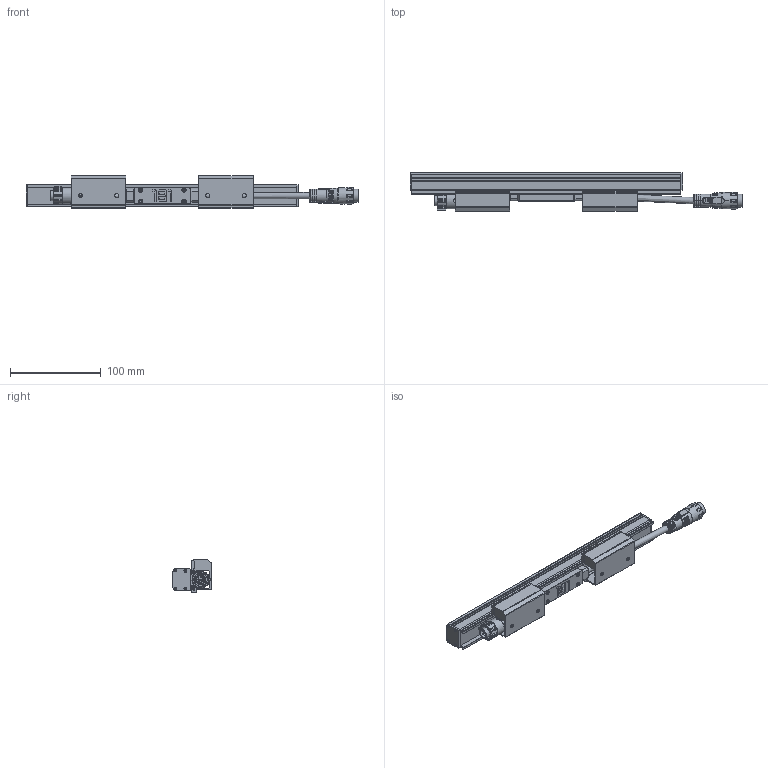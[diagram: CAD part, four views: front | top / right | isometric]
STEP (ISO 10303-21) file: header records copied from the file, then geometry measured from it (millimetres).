
FILE_DESCRIPTION (( 'STEP AP214' ), '1' );
FILE_NAME ('DiGi Linear D-Series 2 L300.STEP', '2025-11-24T13:50:42', ( '' ), ( '' ), 'SwSTEP 2.0', 'SolidWorks 2025', '' );
FILE_SCHEMA (( 'AUTOMOTIVE_DESIGN' ));
Length unit declared in the file: millimetre
Products named in the file (10): Counter sunk screw torx_M3x16; Counter sunk screw torx_M2.5x16; Part11^DiGi Linear D-Series 2; M16 5p Male; D series 2 body_300; D series 2 clip top; M16 5p Female; D series 2 clip bottom; Counter sunk screw torx_M2x6; DiGi Linear D-Series 2 L300
Assembly tree (28 placements, depth 2):
  DiGi Linear D-Series 2 L300
    D series 2 body_300
    D series 2 clip bottom  x2
    D series 2 clip top  x2
    Counter sunk screw torx_M3x16  x4
    Counter sunk screw torx_M2.5x16  x8
    Counter sunk screw torx_M2x6  x8
    M16 5p Female
    M16 5p Male
    Part11^DiGi Linear D-Series 2
Bounding box: 365.31 x 42.09 x 35.5 mm (x, y, z)
Volume: 213044.8 mm3; surface area: 86471.2 mm2
Topology: 32 solids, 33 shells, 1782 faces, 4501 edges, 2882 vertices
Faces by surface type: cylinder 748, plane 668, cone 121, bspline 117, torus 114, sphere 14
Full cylindrical faces by diameter (mm): 1.8 x4, 2 x8, 2.5 x8, 2.65 x4, 3 x12, 4.5 x8, 4.6 x4, 5.81 x4, 9.2 x1, 11.1 x1, 14.25 x1, 14.3 x1, 18 x1
Entity records: 59943 total; most frequent: CARTESIAN_POINT 19491, ORIENTED_EDGE 6800, DIRECTION 6288, EDGE_CURVE 3400, AXIS2_PLACEMENT_3D 2390, VERTEX_POINT 2198, EDGE_LOOP 1558, VECTOR 1508
